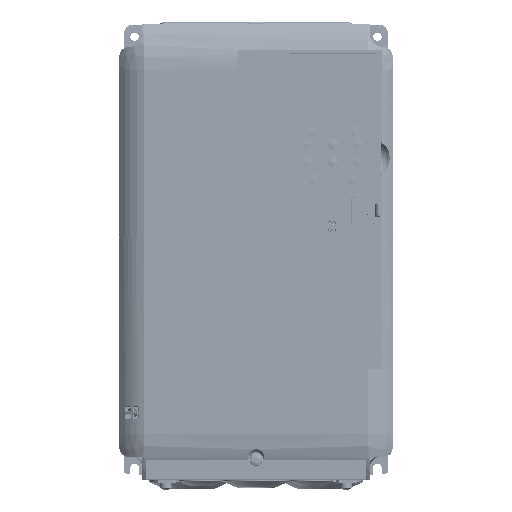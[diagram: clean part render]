
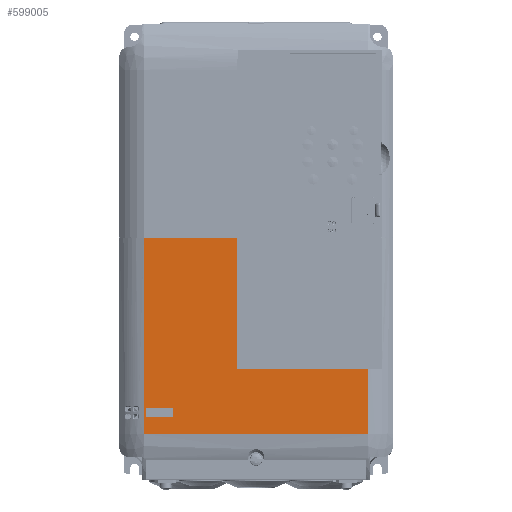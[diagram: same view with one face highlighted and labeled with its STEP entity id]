
A CAD part, top view. The second image highlights one B-rep face of the part: STEP entity #599005.
In plain terms, the highlighted planar face has unit normal (0, 0, 1).
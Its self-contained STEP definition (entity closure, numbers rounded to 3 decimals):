
#582966=DIRECTION('',(0.,-1.,0.));
#582967=VECTOR('',#582966,86.5);
#582968=CARTESIAN_POINT('',(-12.5,16.5,187.));
#582969=LINE('',#582968,#582967);
#582970=DIRECTION('',(-1.,0.,0.));
#582971=VECTOR('',#582970,86.5);
#582972=CARTESIAN_POINT('',(74.,-70.,187.));
#582973=LINE('',#582972,#582971);
#582974=DIRECTION('',(0.,1.,0.));
#582975=VECTOR('',#582974,42.5);
#582976=CARTESIAN_POINT('',(74.,-112.5,187.));
#582977=LINE('',#582976,#582975);
#582978=DIRECTION('',(1.,0.,0.));
#582979=VECTOR('',#582978,148.);
#582980=CARTESIAN_POINT('',(-74.,-112.5,187.));
#582981=LINE('',#582980,#582979);
#582982=DIRECTION('',(0.,-1.,0.));
#582983=VECTOR('',#582982,129.);
#582984=CARTESIAN_POINT('',(-74.,16.5,187.));
#582985=LINE('',#582984,#582983);
#582986=DIRECTION('',(-1.,0.,0.));
#582987=VECTOR('',#582986,61.5);
#582988=CARTESIAN_POINT('',(-12.5,16.5,187.));
#582989=LINE('',#582988,#582987);
#583026=CARTESIAN_POINT('',(-71.6,-96.25,187.));
#583027=DIRECTION('',(0.,0.,1.));
#583028=DIRECTION('',(0.,1.,0.));
#583029=AXIS2_PLACEMENT_3D('',#583026,#583027,#583028);
#583031=DIRECTION('',(0.,-1.,0.));
#583032=VECTOR('',#583031,4.5);
#583033=CARTESIAN_POINT('',(-72.4,-96.25,187.));
#583034=LINE('',#583033,#583032);
#583035=CARTESIAN_POINT('',(-71.6,-100.75,187.));
#583036=DIRECTION('',(0.,0.,1.));
#583037=DIRECTION('',(-1.,0.,0.));
#583038=AXIS2_PLACEMENT_3D('',#583035,#583036,#583037);
#583040=DIRECTION('',(1.,0.,0.));
#583041=VECTOR('',#583040,16.2);
#583042=CARTESIAN_POINT('',(-71.6,-101.55,187.));
#583043=LINE('',#583042,#583041);
#583044=CARTESIAN_POINT('',(-55.4,-100.75,187.));
#583045=DIRECTION('',(0.,0.,1.));
#583046=DIRECTION('',(0.,-1.,0.));
#583047=AXIS2_PLACEMENT_3D('',#583044,#583045,#583046);
#583049=DIRECTION('',(0.,1.,0.));
#583050=VECTOR('',#583049,4.5);
#583051=CARTESIAN_POINT('',(-54.6,-100.75,187.));
#583052=LINE('',#583051,#583050);
#583053=CARTESIAN_POINT('',(-55.4,-96.25,187.));
#583054=DIRECTION('',(0.,0.,1.));
#583055=DIRECTION('',(1.,0.,0.));
#583056=AXIS2_PLACEMENT_3D('',#583053,#583054,#583055);
#583058=DIRECTION('',(-1.,0.,0.));
#583059=VECTOR('',#583058,16.2);
#583060=CARTESIAN_POINT('',(-55.4,-95.45,187.));
#583061=LINE('',#583060,#583059);
#595253=CARTESIAN_POINT('',(-74.,-112.5,187.));
#595254=CARTESIAN_POINT('',(74.,-112.5,187.));
#595255=VERTEX_POINT('',#595253);
#595256=VERTEX_POINT('',#595254);
#597601=CARTESIAN_POINT('',(74.,-70.,187.));
#597602=CARTESIAN_POINT('',(-12.5,-70.,187.));
#597603=VERTEX_POINT('',#597601);
#597604=VERTEX_POINT('',#597602);
#598051=CARTESIAN_POINT('',(-71.6,-95.45,187.));
#598052=CARTESIAN_POINT('',(-72.4,-96.25,187.));
#598053=VERTEX_POINT('',#598051);
#598054=VERTEX_POINT('',#598052);
#598055=CARTESIAN_POINT('',(-72.4,-100.75,187.));
#598056=VERTEX_POINT('',#598055);
#598057=CARTESIAN_POINT('',(-71.6,-101.55,187.));
#598058=VERTEX_POINT('',#598057);
#598059=CARTESIAN_POINT('',(-55.4,-101.55,187.));
#598060=VERTEX_POINT('',#598059);
#598061=CARTESIAN_POINT('',(-54.6,-100.75,187.));
#598062=VERTEX_POINT('',#598061);
#598063=CARTESIAN_POINT('',(-54.6,-96.25,187.));
#598064=VERTEX_POINT('',#598063);
#598065=CARTESIAN_POINT('',(-55.4,-95.45,187.));
#598066=VERTEX_POINT('',#598065);
#598928=CARTESIAN_POINT('',(-74.,16.5,187.));
#598929=VERTEX_POINT('',#598928);
#598946=CARTESIAN_POINT('',(-12.5,16.5,187.));
#598947=VERTEX_POINT('',#598946);
#598968=CARTESIAN_POINT('',(0.,0.,187.));
#598969=DIRECTION('',(0.,0.,1.));
#598970=DIRECTION('',(1.,0.,0.));
#598971=AXIS2_PLACEMENT_3D('',#598968,#598969,#598970);
#598972=PLANE('',#598971);
#598974=ORIENTED_EDGE('',*,*,#598973,.T.);
#598976=ORIENTED_EDGE('',*,*,#598975,.F.);
#598978=ORIENTED_EDGE('',*,*,#598977,.F.);
#598980=ORIENTED_EDGE('',*,*,#598979,.F.);
#598982=ORIENTED_EDGE('',*,*,#598981,.F.);
#598984=ORIENTED_EDGE('',*,*,#598983,.F.);
#598985=EDGE_LOOP('',(#598974,#598976,#598978,#598980,#598982,#598984));
#598986=FACE_OUTER_BOUND('',#598985,.F.);
#598988=ORIENTED_EDGE('',*,*,#598987,.T.);
#598990=ORIENTED_EDGE('',*,*,#598989,.T.);
#598992=ORIENTED_EDGE('',*,*,#598991,.T.);
#598994=ORIENTED_EDGE('',*,*,#598993,.T.);
#598996=ORIENTED_EDGE('',*,*,#598995,.T.);
#598998=ORIENTED_EDGE('',*,*,#598997,.T.);
#599000=ORIENTED_EDGE('',*,*,#598999,.T.);
#599002=ORIENTED_EDGE('',*,*,#599001,.T.);
#599003=EDGE_LOOP('',(#598988,#598990,#598992,#598994,#598996,#598998,#599000,
#599002));
#599004=FACE_BOUND('',#599003,.F.);
#599005=ADVANCED_FACE('',(#598986,#599004),#598972,.T.);
#583030=CIRCLE('',#583029,0.8);
#583039=CIRCLE('',#583038,0.8);
#583048=CIRCLE('',#583047,0.8);
#583057=CIRCLE('',#583056,0.8);
#598973=EDGE_CURVE('',#598947,#597604,#582969,.T.);
#598975=EDGE_CURVE('',#597603,#597604,#582973,.T.);
#598977=EDGE_CURVE('',#595256,#597603,#582977,.T.);
#598979=EDGE_CURVE('',#595255,#595256,#582981,.T.);
#598981=EDGE_CURVE('',#598929,#595255,#582985,.T.);
#598983=EDGE_CURVE('',#598947,#598929,#582989,.T.);
#598987=EDGE_CURVE('',#598053,#598054,#583030,.T.);
#598989=EDGE_CURVE('',#598054,#598056,#583034,.T.);
#598991=EDGE_CURVE('',#598056,#598058,#583039,.T.);
#598993=EDGE_CURVE('',#598058,#598060,#583043,.T.);
#598995=EDGE_CURVE('',#598060,#598062,#583048,.T.);
#598997=EDGE_CURVE('',#598062,#598064,#583052,.T.);
#598999=EDGE_CURVE('',#598064,#598066,#583057,.T.);
#599001=EDGE_CURVE('',#598066,#598053,#583061,.T.);
